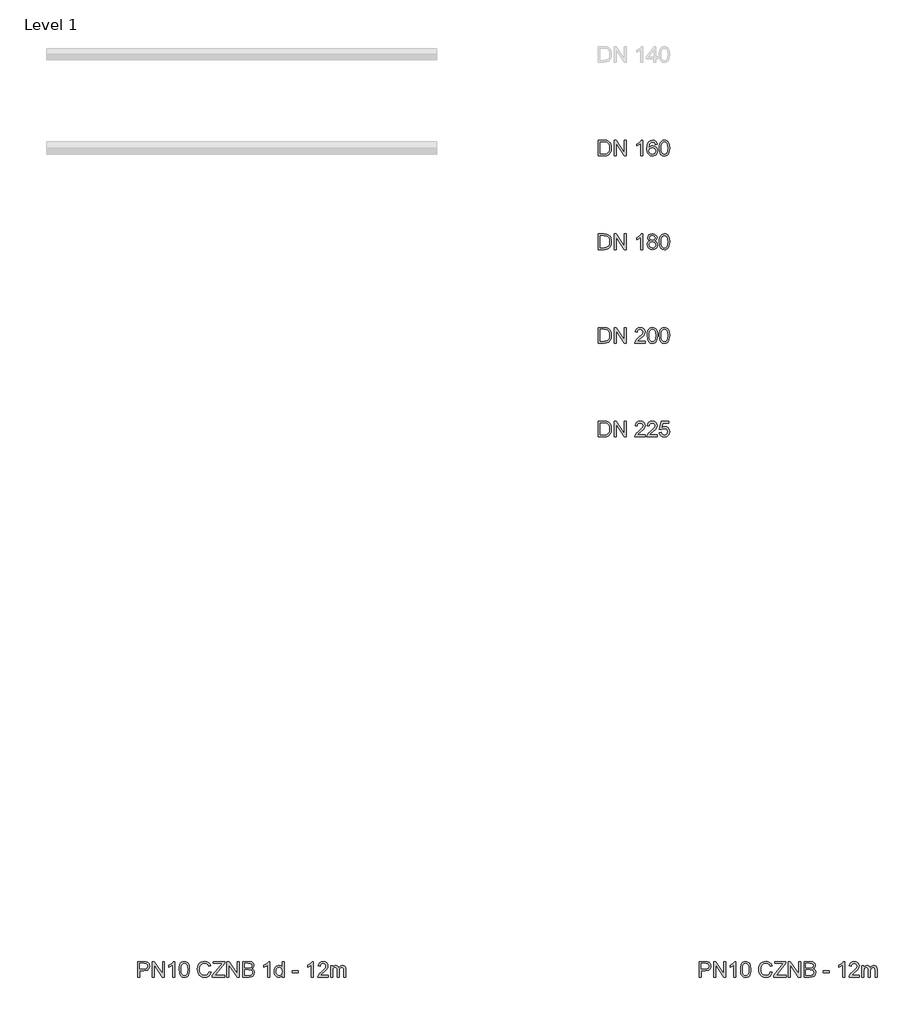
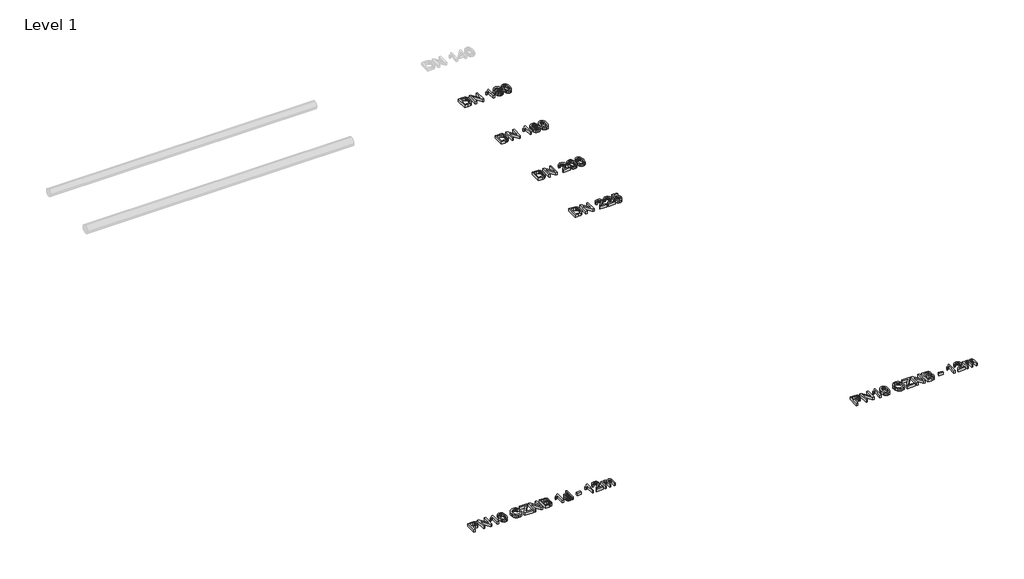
# One storey, part 8 of 13: 6 proxies.
"""IFC4 building model written with IfcOpenShell, lengths in millimetres."""

from ifc_helpers import new_model, si_unit, origin, origin_with_axes, place, context, project, spatial, polyline, outline, extrude, element, save

model = new_model("IFC4")

# Units and contexts
model_context = context("Model", 3, world=origin())
ifc_project = project(units=[si_unit("LENGTHUNIT", "METRE", prefix="MILLI")], contexts=[model_context])

# Site, building, storey
site = spatial("IfcSite", under=ifc_project)
building = spatial("IfcBuilding", under=site)
storey = spatial("IfcBuildingStorey", under=building, Name="Level 1", Elevation=0.0)

# Proxies
placement = place(None, origin())
element("IfcBuildingElementProxy", 1, Name="200mm Arial", ObjectType="200mm Arial", at=placement, inside=storey, context=model_context, shape_type="SweptSolid", body=[
    extrude(outline(polyline([(25539.3076926, -10313.949573), (25539.3076926, -10113.0369527), (25608.6166605, -10113.0369527), (25644.4728923, -10115.9309577), (25660.4880218, -10121.5105013), (25674.0015538, -10130.302881), (25687.8952305, -10145.606772), (25697.7912562, -10164.6385338), (25703.7141563, -10187.0302846), (25705.6884563, -10212.4141423), (25700.3419047, -10252.9547382), (25686.6076435, -10282.2136195), (25668.2625947, -10300.436041), (25644.2521631, -10310.5160077), (25611.9521239, -10313.949573), (25539.3076926, -10313.949573)]), holes=[polyline([(25564.4217702, -10288.8354954), (25608.8619152, -10288.8354954), (25641.1864798, -10285.2057264), (25659.8258342, -10274.9540815), (25668.5507689, -10264.0831685), (25675.1051998, -10250.0116822), (25679.207084, -10232.6783089), (25680.5743788, -10212.0217348), (25677.8949716, -10184.6513144), (25669.85675, -10164.4423301), (25657.9802929, -10150.5609162), (25643.7861793, -10142.1732067), (25608.1752021, -10138.1510302), (25564.4217702, -10138.1510302), (25564.4217702, -10288.8354954)])]), origin_with_axes(), (0.0, 0.0, 1.0), 50.0),
    extrude(outline(polyline([(25740.2203129, -10313.949573), (25740.2203129, -10113.0369527), (25767.100224, -10113.0369527), (25872.06922, -10272.2072292), (25872.06922, -10113.0369527), (25897.1832975, -10113.0369527), (25897.1832975, -10313.949573), (25870.3033864, -10313.949573), (25765.3343905, -10154.7302454), (25765.3343905, -10313.949573), (25740.2203129, -10313.949573)])), origin_with_axes(), (0.0, 0.0, 1.0), 50.0),
    extrude(outline(polyline([(26104.3744372, -10313.949573), (26079.2603597, -10313.949573), (26079.2603597, -10157.3789958), (26055.4706573, -10174.3260931), (26029.0322046, -10187.0057592), (26029.0322046, -10163.2651077), (26065.8449296, -10139.769711), (26079.315542, -10126.1948653), (26088.1876294, -10113.0369527), (26104.3744372, -10113.0369527), (26104.3744372, -10313.949573)])), origin_with_axes(), (0.0, 0.0, 1.0), 50.0),
    extrude(outline(polyline([(26292.7300188, -10166.4043674), (26267.6159412, -10169.5436271), (26258.1000603, -10148.5988789), (26246.7079812, -10140.7629924), (26232.9369318, -10138.1510302), (26210.2754009, -10144.2333458), (26200.8392277, -10153.8411973), (26193.1320999, -10167.066555), (26187.9265697, -10185.7733545), (26185.9951892, -10211.8255311), (26196.0690245, -10200.0717013), (26208.1416853, -10191.7882251), (26221.5387213, -10186.8770005), (26235.5856822, -10185.2399256), (26258.7867733, -10189.7158232), (26278.2599936, -10203.143516), (26291.4669572, -10223.6590686), (26295.8692784, -10249.3985455), (26293.7968765, -10267.3818437), (26287.5796708, -10284.0530295), (26277.7326961, -10298.1919608), (26264.7709871, -10308.5784958), (26249.2831551, -10314.9612484), (26231.8578113, -10317.0888326), (26203.3653508, -10311.4479754), (26180.673163, -10294.5254036), (26172.0141406, -10281.4165418), (26165.8291245, -10264.6533856), (26160.8811117, -10220.1641897), (26166.3748161, -10170.144501), (26173.2419467, -10151.0667539), (26182.8559295, -10135.9437382), (26193.276187, -10125.9220195), (26205.3580449, -10118.763649), (26234.5065616, -10113.0369527), (26256.5426932, -10116.5808825), (26274.1887662, -10127.2126722), (26286.5496012, -10144.0984558), (26292.7300188, -10166.4043674)]), holes=[polyline([(26185.9951892, -10249.0061381), (26191.8077247, -10270.7602267), (26207.2587685, -10286.554627), (26229.895774, -10291.9747551), (26246.4688579, -10289.1665892), (26259.4980119, -10280.7420915), (26267.9409036, -10267.4983397), (26270.7552009, -10250.2324114), (26267.9776918, -10233.6593275), (26259.6451647, -10221.022581), (26246.3952815, -10213.0211476), (26228.8657044, -10210.3540031), (26212.317146, -10213.0211476), (26198.4786516, -10221.022581), (26189.1160548, -10233.3527592), (26185.9951892, -10249.0061381)])]), origin_with_axes(), (0.0, 0.0, 1.0), 50.0),
    extrude(outline(polyline([(26317.8440963, -10215.1119436), (26319.6896376, -10182.9529258), (26325.2262617, -10157.3054194), (26334.3987861, -10137.7770168), (26347.1520286, -10123.9753106), (26363.5779597, -10115.7715422), (26383.7685498, -10113.0369527), (26399.2441191, -10114.6556334), (26413.1010076, -10119.5116758), (26424.6892904, -10127.4150073), (26433.3590428, -10138.1755557), (26445.1312666, -10167.9004209), (26449.6930034, -10215.1119436), (26447.8658561, -10247.0870203), (26442.3844144, -10272.6732131), (26433.2670723, -10292.2200098), (26420.5322239, -10306.0768983), (26404.0695046, -10314.335849), (26383.7685498, -10317.0888326), (26357.6734536, -10312.3063667), (26337.8568768, -10297.9589689), (26329.1012853, -10282.8298218), (26322.8472914, -10263.9789353), (26317.8440963, -10215.1119436)]), holes=[polyline([(26342.9581738, -10215.0628927), (26345.9012298, -10254.5672876), (26354.7303977, -10277.4311536), (26367.8760476, -10288.3388547), (26383.7685498, -10291.9747551), (26399.661052, -10288.326592), (26412.806702, -10277.3821026), (26421.6358699, -10254.5059739), (26424.5789258, -10215.0628927), (26421.7339717, -10176.4475459), (26413.1991094, -10153.4058703), (26400.0779849, -10141.9647402), (26383.4742442, -10138.1510302), (26367.7534203, -10141.5110191), (26355.1228051, -10151.5909857), (26345.9993317, -10176.0674012), (26342.9581738, -10215.0628927)])]), origin_with_axes(), (0.0, 0.0, 1.0), 50.0),
])
element("IfcBuildingElementProxy", 2, Name="200mm Arial", ObjectType="200mm Arial", at=placement, inside=storey, context=model_context, shape_type="SweptSolid", body=[
    extrude(outline(polyline([(25539.3076926, -12713.949573), (25539.3076926, -12513.0369527), (25608.6166605, -12513.0369527), (25644.4728923, -12515.9309577), (25660.4880218, -12521.5105013), (25674.0015538, -12530.302881), (25687.8952305, -12545.606772), (25697.7912562, -12564.6385338), (25703.7141563, -12587.0302846), (25705.6884563, -12612.4141423), (25700.3419047, -12652.9547382), (25686.6076435, -12682.2136195), (25668.2625947, -12700.436041), (25644.2521631, -12710.5160077), (25611.9521239, -12713.949573), (25539.3076926, -12713.949573)]), holes=[polyline([(25564.4217702, -12688.8354954), (25608.8619152, -12688.8354954), (25641.1864798, -12685.2057264), (25659.8258342, -12674.9540815), (25668.5507689, -12664.0831685), (25675.1051998, -12650.0116822), (25679.207084, -12632.6783089), (25680.5743788, -12612.0217348), (25677.8949716, -12584.6513144), (25669.85675, -12564.4423301), (25657.9802929, -12550.5609162), (25643.7861793, -12542.1732067), (25608.1752021, -12538.1510302), (25564.4217702, -12538.1510302), (25564.4217702, -12688.8354954)])]), origin_with_axes(), (0.0, 0.0, 1.0), 50.0),
    extrude(outline(polyline([(25740.2203129, -12713.949573), (25740.2203129, -12513.0369527), (25767.100224, -12513.0369527), (25872.06922, -12672.2072292), (25872.06922, -12513.0369527), (25897.1832975, -12513.0369527), (25897.1832975, -12713.949573), (25870.3033864, -12713.949573), (25765.3343905, -12554.7302454), (25765.3343905, -12713.949573), (25740.2203129, -12713.949573)])), origin_with_axes(), (0.0, 0.0, 1.0), 50.0),
    extrude(outline(polyline([(26138.9062938, -12688.8354954), (26138.9062938, -12713.949573), (26007.0573868, -12713.949573), (26009.7551881, -12696.6345937), (26025.0100281, -12669.9754118), (26056.451676, -12640.8636832), (26099.8127005, -12599.0232377), (26107.9428926, -12584.6022634), (26110.6529566, -12570.5736967), (26108.0961767, -12557.9982638), (26100.4258371, -12547.5442838), (26088.6352192, -12540.4993436), (26073.7176043, -12538.1510302), (26058.0519627, -12540.4441613), (26045.8812, -12547.3235546), (26038.0269194, -12558.2496499), (26035.310724, -12572.6828868), (26010.1966465, -12569.5436271), (26016.2850935, -12545.2511527), (26029.4491375, -12527.5069778), (26049.0020656, -12516.6544589), (26074.2571645, -12513.0369527), (26099.6962045, -12517.0591291), (26119.2123444, -12529.1256586), (26131.6283617, -12547.1518763), (26135.7670341, -12569.0531178), (26131.3033993, -12592.8673456), (26116.4654921, -12617.4909138), (26080.486633, -12651.9001431), (26051.5956336, -12676.0577275), (26040.2648682, -12688.8354954), (26138.9062938, -12688.8354954)])), origin_with_axes(), (0.0, 0.0, 1.0), 50.0),
    extrude(outline(polyline([(26164.0203714, -12615.1119436), (26165.8659127, -12582.9529258), (26171.4025367, -12557.3054194), (26180.5750612, -12537.7770168), (26193.3283037, -12523.9753106), (26209.7542347, -12515.7715422), (26229.9448249, -12513.0369527), (26245.4203942, -12514.6556334), (26259.2772827, -12519.5116758), (26270.8655655, -12527.4150073), (26279.5353179, -12538.1755557), (26291.3075417, -12567.9004209), (26295.8692784, -12615.1119436), (26294.0421312, -12647.0870203), (26288.5606895, -12672.6732131), (26279.4433474, -12692.2200098), (26266.708499, -12706.0768983), (26250.2457797, -12714.335849), (26229.9448249, -12717.0888326), (26203.8497287, -12712.3063667), (26184.0331519, -12697.9589689), (26175.2775604, -12682.8298218), (26169.0235665, -12663.9789353), (26164.0203714, -12615.1119436)]), holes=[polyline([(26189.1344489, -12615.0628927), (26192.0775049, -12654.5672876), (26200.9066728, -12677.4311536), (26214.0523227, -12688.3388547), (26229.9448249, -12691.9747551), (26245.8373271, -12688.326592), (26258.9829771, -12677.3821026), (26267.8121449, -12654.5059739), (26270.7552009, -12615.0628927), (26267.9102468, -12576.4475459), (26259.3753845, -12553.4058703), (26246.25426, -12541.9647402), (26229.6505193, -12538.1510302), (26213.9296954, -12541.5110191), (26201.2990802, -12551.5909857), (26192.1756067, -12576.0674012), (26189.1344489, -12615.0628927)])]), origin_with_axes(), (0.0, 0.0, 1.0), 50.0),
    extrude(outline(polyline([(26317.8440963, -12615.1119436), (26319.6896376, -12582.9529258), (26325.2262617, -12557.3054194), (26334.3987861, -12537.7770168), (26347.1520286, -12523.9753106), (26363.5779597, -12515.7715422), (26383.7685498, -12513.0369527), (26399.2441191, -12514.6556334), (26413.1010076, -12519.5116758), (26424.6892904, -12527.4150073), (26433.3590428, -12538.1755557), (26445.1312666, -12567.9004209), (26449.6930034, -12615.1119436), (26447.8658561, -12647.0870203), (26442.3844144, -12672.6732131), (26433.2670723, -12692.2200098), (26420.5322239, -12706.0768983), (26404.0695046, -12714.335849), (26383.7685498, -12717.0888326), (26357.6734536, -12712.3063667), (26337.8568768, -12697.9589689), (26329.1012853, -12682.8298218), (26322.8472914, -12663.9789353), (26317.8440963, -12615.1119436)]), holes=[polyline([(26342.9581738, -12615.0628927), (26345.9012298, -12654.5672876), (26354.7303977, -12677.4311536), (26367.8760476, -12688.3388547), (26383.7685498, -12691.9747551), (26399.661052, -12688.326592), (26412.806702, -12677.3821026), (26421.6358699, -12654.5059739), (26424.5789258, -12615.0628927), (26421.7339717, -12576.4475459), (26413.1991094, -12553.4058703), (26400.0779849, -12541.9647402), (26383.4742442, -12538.1510302), (26367.7534203, -12541.5110191), (26355.1228051, -12551.5909857), (26345.9993317, -12576.0674012), (26342.9581738, -12615.0628927)])]), origin_with_axes(), (0.0, 0.0, 1.0), 50.0),
])
element("IfcBuildingElementProxy", 3, Name="200mm Arial", ObjectType="200mm Arial", at=placement, inside=storey, context=model_context, shape_type="SweptSolid", body=[
    extrude(outline(polyline([(25539.3076926, -11513.949573), (25539.3076926, -11313.0369527), (25608.6166605, -11313.0369527), (25644.4728923, -11315.9309577), (25660.4880218, -11321.5105013), (25674.0015538, -11330.302881), (25687.8952305, -11345.606772), (25697.7912562, -11364.6385338), (25703.7141563, -11387.0302846), (25705.6884563, -11412.4141423), (25700.3419047, -11452.9547382), (25686.6076435, -11482.2136195), (25668.2625947, -11500.436041), (25644.2521631, -11510.5160077), (25611.9521239, -11513.949573), (25539.3076926, -11513.949573)]), holes=[polyline([(25564.4217702, -11488.8354954), (25608.8619152, -11488.8354954), (25641.1864798, -11485.2057264), (25659.8258342, -11474.9540815), (25668.5507689, -11464.0831685), (25675.1051998, -11450.0116822), (25679.207084, -11432.6783089), (25680.5743788, -11412.0217348), (25677.8949716, -11384.6513144), (25669.85675, -11364.4423301), (25657.9802929, -11350.5609162), (25643.7861793, -11342.1732067), (25608.1752021, -11338.1510302), (25564.4217702, -11338.1510302), (25564.4217702, -11488.8354954)])]), origin_with_axes(), (0.0, 0.0, 1.0), 50.0),
    extrude(outline(polyline([(25740.2203129, -11513.949573), (25740.2203129, -11313.0369527), (25767.100224, -11313.0369527), (25872.06922, -11472.2072292), (25872.06922, -11313.0369527), (25897.1832975, -11313.0369527), (25897.1832975, -11513.949573), (25870.3033864, -11513.949573), (25765.3343905, -11354.7302454), (25765.3343905, -11513.949573), (25740.2203129, -11513.949573)])), origin_with_axes(), (0.0, 0.0, 1.0), 50.0),
    extrude(outline(polyline([(26104.3744372, -11513.949573), (26079.2603597, -11513.949573), (26079.2603597, -11357.3789958), (26055.4706573, -11374.3260931), (26029.0322046, -11387.0057592), (26029.0322046, -11363.2651077), (26065.8449296, -11339.769711), (26079.315542, -11326.1948653), (26088.1876294, -11313.0369527), (26104.3744372, -11313.0369527), (26104.3744372, -11513.949573)])), origin_with_axes(), (0.0, 0.0, 1.0), 50.0),
    extrude(outline(polyline([(26200.6123672, -11403.2906688), (26187.1662802, -11396.6687929), (26177.7301071, -11387.6924722), (26172.1566948, -11376.5456478), (26170.2988908, -11363.4122605), (26174.3455927, -11343.7796247), (26186.4856985, -11327.5560287), (26205.3580449, -11316.6667217), (26229.6014684, -11313.0369527), (26253.9920447, -11316.7525608), (26273.1096457, -11327.8993853), (26285.4704807, -11344.3804986), (26289.5907591, -11364.0989736), (26287.7574804, -11376.8092965), (26282.2576446, -11387.7660486), (26273.0299379, -11396.687187), (26260.0130466, -11403.2906688), (26275.4702218, -11411.255314), (26286.7212795, -11422.9846183), (26293.5822787, -11437.9144959), (26295.8692784, -11455.4808612), (26291.3320672, -11479.4912927), (26277.7204333, -11499.332395), (26256.7021087, -11512.6497232), (26229.9448249, -11517.0888326), (26203.1875411, -11512.6313291), (26182.1692165, -11499.2588186), (26168.5575826, -11479.227644), (26164.0203714, -11454.7941481), (26166.3993416, -11436.5472012), (26173.5362523, -11421.5376158), (26185.0632215, -11410.2804267), (26200.6123672, -11403.2906688)]), holes=[polyline([(26195.4129683, -11364.1480245), (26197.6386544, -11375.110908), (26204.3157126, -11383.8664995), (26215.2479392, -11389.6054586), (26230.2391305, -11391.518445), (26244.8808339, -11389.6177213), (26255.6475136, -11383.9155504), (26262.2693896, -11375.4542645), (26264.4766815, -11365.276196), (26262.1958132, -11354.7118513), (26255.353208, -11345.974654), (26244.4393755, -11340.1069361), (26229.9448249, -11338.1510302), (26215.3583038, -11340.0640166), (26204.4628654, -11345.8029757), (26197.6754426, -11354.2152106), (26195.4129683, -11364.1480245)]), polyline([(26189.1344489, -11453.9112313), (26193.3283037, -11472.8203659), (26199.1347078, -11480.9321639), (26208.1662108, -11486.97156), (26230.1410286, -11491.9747551), (26247.2352787, -11489.3443988), (26260.0620976, -11481.45333), (26268.0819251, -11469.5032966), (26270.7552009, -11454.6960463), (26267.9960859, -11439.6374099), (26259.7187411, -11427.4237277), (26246.5976166, -11419.3303238), (26229.3071628, -11416.6325225), (26212.452036, -11419.2935356), (26199.7539758, -11427.2765749), (26191.7893306, -11439.2572652), (26189.1344489, -11453.9112313)])]), origin_with_axes(), (0.0, 0.0, 1.0), 50.0),
    extrude(outline(polyline([(26317.8440963, -11415.1119436), (26319.6896376, -11382.9529258), (26325.2262617, -11357.3054194), (26334.3987861, -11337.7770168), (26347.1520286, -11323.9753106), (26363.5779597, -11315.7715422), (26383.7685498, -11313.0369527), (26399.2441191, -11314.6556334), (26413.1010076, -11319.5116758), (26424.6892904, -11327.4150073), (26433.3590428, -11338.1755557), (26445.1312666, -11367.9004209), (26449.6930034, -11415.1119436), (26447.8658561, -11447.0870203), (26442.3844144, -11472.6732131), (26433.2670723, -11492.2200098), (26420.5322239, -11506.0768983), (26404.0695046, -11514.335849), (26383.7685498, -11517.0888326), (26357.6734536, -11512.3063667), (26337.8568768, -11497.9589689), (26329.1012853, -11482.8298218), (26322.8472914, -11463.9789353), (26317.8440963, -11415.1119436)]), holes=[polyline([(26342.9581738, -11415.0628927), (26345.9012298, -11454.5672876), (26354.7303977, -11477.4311536), (26367.8760476, -11488.3388547), (26383.7685498, -11491.9747551), (26399.661052, -11488.326592), (26412.806702, -11477.3821026), (26421.6358699, -11454.5059739), (26424.5789258, -11415.0628927), (26421.7339717, -11376.4475459), (26413.1991094, -11353.4058703), (26400.0779849, -11341.9647402), (26383.4742442, -11338.1510302), (26367.7534203, -11341.5110191), (26355.1228051, -11351.5909857), (26345.9993317, -11376.0674012), (26342.9581738, -11415.0628927)])]), origin_with_axes(), (0.0, 0.0, 1.0), 50.0),
])
element("IfcBuildingElementProxy", 4, Name="200mm Arial", ObjectType="200mm Arial", at=placement, inside=storey, context=model_context, shape_type="SweptSolid", body=[
    extrude(outline(polyline([(25539.3076926, -13913.949573), (25539.3076926, -13713.0369527), (25608.6166605, -13713.0369527), (25644.4728923, -13715.9309577), (25660.4880218, -13721.5105013), (25674.0015538, -13730.302881), (25687.8952305, -13745.606772), (25697.7912562, -13764.6385338), (25703.7141563, -13787.0302846), (25705.6884563, -13812.4141423), (25700.3419047, -13852.9547382), (25686.6076435, -13882.2136195), (25668.2625947, -13900.436041), (25644.2521631, -13910.5160077), (25611.9521239, -13913.949573), (25539.3076926, -13913.949573)]), holes=[polyline([(25564.4217702, -13888.8354954), (25608.8619152, -13888.8354954), (25641.1864798, -13885.2057264), (25659.8258342, -13874.9540815), (25668.5507689, -13864.0831685), (25675.1051998, -13850.0116822), (25679.207084, -13832.6783089), (25680.5743788, -13812.0217348), (25677.8949716, -13784.6513144), (25669.85675, -13764.4423301), (25657.9802929, -13750.5609162), (25643.7861793, -13742.1732067), (25608.1752021, -13738.1510302), (25564.4217702, -13738.1510302), (25564.4217702, -13888.8354954)])]), origin_with_axes(), (0.0, 0.0, 1.0), 50.0),
    extrude(outline(polyline([(25740.2203129, -13913.949573), (25740.2203129, -13713.0369527), (25767.100224, -13713.0369527), (25872.06922, -13872.2072292), (25872.06922, -13713.0369527), (25897.1832975, -13713.0369527), (25897.1832975, -13913.949573), (25870.3033864, -13913.949573), (25765.3343905, -13754.7302454), (25765.3343905, -13913.949573), (25740.2203129, -13913.949573)])), origin_with_axes(), (0.0, 0.0, 1.0), 50.0),
    extrude(outline(polyline([(26138.9062938, -13888.8354954), (26138.9062938, -13913.949573), (26007.0573868, -13913.949573), (26009.7551881, -13896.6345937), (26025.0100281, -13869.9754118), (26056.451676, -13840.8636832), (26099.8127005, -13799.0232377), (26107.9428926, -13784.6022634), (26110.6529566, -13770.5736967), (26108.0961767, -13757.9982638), (26100.4258371, -13747.5442838), (26088.6352192, -13740.4993436), (26073.7176043, -13738.1510302), (26058.0519627, -13740.4441613), (26045.8812, -13747.3235546), (26038.0269194, -13758.2496499), (26035.310724, -13772.6828868), (26010.1966465, -13769.5436271), (26016.2850935, -13745.2511527), (26029.4491375, -13727.5069778), (26049.0020656, -13716.6544589), (26074.2571645, -13713.0369527), (26099.6962045, -13717.0591291), (26119.2123444, -13729.1256586), (26131.6283617, -13747.1518763), (26135.7670341, -13769.0531178), (26131.3033993, -13792.8673456), (26116.4654921, -13817.4909138), (26080.486633, -13851.9001431), (26051.5956336, -13876.0577275), (26040.2648682, -13888.8354954), (26138.9062938, -13888.8354954)])), origin_with_axes(), (0.0, 0.0, 1.0), 50.0),
    extrude(outline(polyline([(26292.7300188, -13888.8354954), (26292.7300188, -13913.949573), (26160.8811117, -13913.949573), (26163.578913, -13896.6345937), (26178.833753, -13869.9754118), (26210.2754009, -13840.8636832), (26253.6364254, -13799.0232377), (26261.7666175, -13784.6022634), (26264.4766815, -13770.5736967), (26261.9199017, -13757.9982638), (26254.2495621, -13747.5442838), (26242.4589441, -13740.4993436), (26227.5413292, -13738.1510302), (26211.8756876, -13740.4441613), (26199.7049249, -13747.3235546), (26191.8506443, -13758.2496499), (26189.1344489, -13772.6828868), (26164.0203714, -13769.5436271), (26170.1088184, -13745.2511527), (26183.2728625, -13727.5069778), (26202.8257905, -13716.6544589), (26228.0808895, -13713.0369527), (26253.5199294, -13717.0591291), (26273.0360693, -13729.1256586), (26285.4520866, -13747.1518763), (26289.5907591, -13769.0531178), (26285.1271242, -13792.8673456), (26270.289217, -13817.4909138), (26234.3103579, -13851.9001431), (26205.4193586, -13876.0577275), (26194.0885931, -13888.8354954), (26292.7300188, -13888.8354954)])), origin_with_axes(), (0.0, 0.0, 1.0), 50.0),
    extrude(outline(polyline([(26317.8440963, -13860.5821582), (26342.9581738, -13857.4428985), (26347.5689615, -13872.5199289), (26355.6133145, -13883.3172655), (26367.0544445, -13889.8103827), (26381.8555634, -13891.9747551), (26399.8572557, -13888.9642541), (26413.3462622, -13879.9327511), (26421.7707599, -13865.9225785), (26424.5789258, -13847.9760685), (26421.9485696, -13831.0780222), (26414.0575008, -13818.1531014), (26400.8444058, -13809.9493329), (26382.2479709, -13807.2147434), (26360.1995767, -13811.5802764), (26346.0974335, -13822.9110419), (26320.983356, -13819.7717822), (26342.9581738, -13716.1762123), (26440.2752243, -13716.1762123), (26440.2752243, -13741.2902899), (26363.26526, -13741.2902899), (26352.5231057, -13796.619742), (26370.4634843, -13785.7304349), (26389.2622543, -13782.1006659), (26412.7269942, -13786.601089), (26432.2063459, -13800.1023582), (26445.321339, -13820.6792244), (26449.6930034, -13846.4064386), (26445.756666, -13871.5205162), (26433.947654, -13893.0048247), (26423.512068, -13903.5415782), (26411.335174, -13911.0678307), (26397.4169718, -13915.5835821), (26381.7574616, -13917.0888326), (26357.0909738, -13913.2199403), (26337.4399439, -13901.6132634), (26323.9693315, -13883.6177025), (26317.8440963, -13860.5821582)])), origin_with_axes(), (0.0, 0.0, 1.0), 50.0),
])
element("IfcBuildingElementProxy", 5, Name="200mm Arial", ObjectType="200mm Arial", at=placement, inside=storey, context=model_context, shape_type="SweptSolid", body=[
    extrude(outline(polyline([(26829.3512364, -20838.0508707), (26829.3512364, -20637.1382504), (26903.8105522, -20637.1382504), (26933.829723, -20639.0512367), (26958.232562, -20648.4444903), (26967.1046495, -20656.7708862), (26974.0514878, -20667.8686597), (26978.5396481, -20680.9591274), (26980.0357016, -20695.2636056), (26975.995131, -20718.9429434), (26963.8734193, -20738.673681), (26954.1659331, -20746.4421225), (26941.205757, -20751.9910093), (26905.5273348, -20756.4301187), (26854.4653139, -20756.4301187), (26854.4653139, -20838.0508707), (26829.3512364, -20838.0508707)]), holes=[polyline([(26854.4653139, -20731.3160411), (26906.9988628, -20731.3160411), (26929.2679863, -20729.0106473), (26943.9832661, -20722.0944658), (26952.1870346, -20710.9966923), (26954.9216241, -20696.1465224), (26953.3090746, -20684.8648079), (26948.4714264, -20675.3489269), (26941.0095533, -20668.1874908), (26931.5243292, -20663.9691105), (26906.4102516, -20662.2523279), (26854.4653139, -20662.2523279), (26854.4653139, -20731.3160411)])]), origin_with_axes(), (0.0, 0.0, 1.0), 50.0),
    extrude(outline(polyline([(27014.5675582, -20838.0508707), (27014.5675582, -20637.1382504), (27041.4474693, -20637.1382504), (27146.4164653, -20796.3085269), (27146.4164653, -20637.1382504), (27171.5305428, -20637.1382504), (27171.5305428, -20838.0508707), (27144.6506317, -20838.0508707), (27039.6816357, -20678.8315431), (27039.6816357, -20838.0508707), (27014.5675582, -20838.0508707)])), origin_with_axes(), (0.0, 0.0, 1.0), 50.0),
    extrude(outline(polyline([(27300.2401902, -20838.0508707), (27275.1261127, -20838.0508707), (27275.1261127, -20681.4802935), (27251.3364103, -20698.4273908), (27224.8979576, -20711.1070569), (27224.8979576, -20687.3664054), (27261.7106826, -20663.8710087), (27275.181295, -20650.2961631), (27284.0533824, -20637.1382504), (27300.2401902, -20637.1382504), (27300.2401902, -20838.0508707)])), origin_with_axes(), (0.0, 0.0, 1.0), 50.0),
    extrude(outline(polyline([(27359.8861243, -20739.2132413), (27361.7316657, -20707.0542235), (27367.2682897, -20681.4067171), (27376.4408141, -20661.8783145), (27389.1940566, -20648.0766083), (27405.6199877, -20639.8728399), (27425.8105779, -20637.1382504), (27441.2861471, -20638.7569311), (27455.1430356, -20643.6129735), (27466.7313185, -20651.516305), (27475.4010708, -20662.2768534), (27487.1732947, -20692.0017186), (27491.7350314, -20739.2132413), (27489.9078842, -20771.188318), (27484.4264424, -20796.7745108), (27475.3091003, -20816.3213075), (27462.5742519, -20830.178196), (27446.1115327, -20838.4371468), (27425.8105779, -20841.1901304), (27399.7154817, -20836.4076644), (27379.8989049, -20822.0602666), (27371.1433134, -20806.9311195), (27364.8893195, -20788.080233), (27359.8861243, -20739.2132413)]), holes=[polyline([(27385.0002019, -20739.1641904), (27387.9432578, -20778.6685853), (27396.7724257, -20801.5324513), (27409.9180757, -20812.4401524), (27425.8105779, -20816.0760528), (27441.7030801, -20812.4278897), (27454.84873, -20801.4834003), (27463.6778979, -20778.6072716), (27466.6209539, -20739.1641904), (27463.7759998, -20700.5488436), (27455.2411375, -20677.507168), (27442.120013, -20666.0660379), (27425.5162723, -20662.2523279), (27409.7954484, -20665.6123168), (27397.1648332, -20675.6922835), (27388.0413597, -20700.1686989), (27385.0002019, -20739.1641904)])]), origin_with_axes(), (0.0, 0.0, 1.0), 50.0),
    extrude(outline(polyline([(27742.8758068, -20766.6327127), (27767.9898843, -20773.1074358), (27756.4016015, -20802.3724485), (27738.2159682, -20823.7525238), (27714.328164, -20836.8307287), (27685.6333683, -20841.1901304), (27656.5032457, -20837.8914551), (27633.3695996, -20827.9954295), (27615.6376874, -20811.8454099), (27602.7127666, -20789.7847529), (27594.8216978, -20763.8490722), (27592.1913416, -20736.0739816), (27595.1650544, -20706.778312), (27604.0861927, -20681.4802935), (27618.4887729, -20660.983135), (27637.9068108, -20646.0900456), (27660.9362237, -20637.0217544), (27686.1729286, -20633.9989907), (27713.7088959, -20637.9108025), (27736.4746601, -20649.6462382), (27753.7589825, -20668.4817963), (27764.8506246, -20693.6939758), (27739.7365471, -20699.6781895), (27731.0300065, -20681.3637975), (27719.1351554, -20668.8006274), (27703.9048408, -20661.534958), (27685.1919099, -20659.1130682), (27663.6217623, -20661.7986068), (27645.9021129, -20669.8552225), (27632.4560259, -20682.4367867), (27623.7065658, -20698.6971709), (27618.9057058, -20717.0790079), (27617.3054191, -20736.0249307), (27619.2000114, -20759.2260218), (27624.8837882, -20779.2878533), (27634.5713474, -20795.4440043), (27648.4772868, -20806.9280539), (27665.1484726, -20813.7890531), (27683.1317708, -20816.0760528), (27704.0949131, -20812.9613186), (27721.5631765, -20803.6171159), (27734.7517461, -20788.1415466), (27742.8758068, -20766.6327127)])), origin_with_axes(), (0.0, 0.0, 1.0), 50.0),
    extrude(outline(polyline([(27786.8254425, -20838.0508707), (27786.8254425, -20812.0048254), (27889.5871465, -20686.189183), (27909.1094177, -20662.2523279), (27799.3824813, -20662.2523279), (27799.3824813, -20637.1382504), (27940.6491674, -20637.1382504), (27940.6491674, -20662.2523279), (27828.1753787, -20799.938296), (27817.5803773, -20812.9367931), (27943.7884271, -20812.9367931), (27943.7884271, -20838.0508707), (27786.8254425, -20838.0508707)])), origin_with_axes(), (0.0, 0.0, 1.0), 50.0),
    extrude(outline(polyline([(27972.0417643, -20838.0508707), (27972.0417643, -20637.1382504), (27998.9216754, -20637.1382504), (28103.8906714, -20796.3085269), (28103.8906714, -20637.1382504), (28129.0047489, -20637.1382504), (28129.0047489, -20838.0508707), (28102.1248378, -20838.0508707), (27997.1558419, -20678.8315431), (27997.1558419, -20838.0508707), (27972.0417643, -20838.0508707)])), origin_with_axes(), (0.0, 0.0, 1.0), 50.0),
    extrude(outline(polyline([(28172.9543846, -20838.0508707), (28172.9543846, -20637.1382504), (28249.6209924, -20637.1382504), (28270.7067621, -20638.6159097), (28287.1694814, -20643.0488877), (28299.7878338, -20650.5475491), (28309.340503, -20661.2222583), (28315.3553736, -20673.7792971), (28317.3603305, -20686.924947), (28315.6742047, -20699.0221333), (28310.6158272, -20710.3958183), (28302.14841, -20720.3470263), (28290.2351647, -20728.1767814), (28304.4660665, -20735.6079977), (28314.9813602, -20746.9142377), (28321.4744774, -20761.3474747), (28323.6388498, -20778.1596818), (28317.7282125, -20805.1622203), (28303.086509, -20824.3901859), (28281.2343185, -20834.5927799), (28249.0323812, -20838.0508707), (28172.9543846, -20838.0508707)]), holes=[polyline([(28198.0684622, -20812.9367931), (28249.5719415, -20812.9367931), (28268.2112959, -20811.9557745), (28283.9811708, -20806.4865955), (28294.4290194, -20795.3275083), (28298.5247723, -20778.4049365), (28293.7177809, -20758.8826653), (28287.4208674, -20751.8254624), (28278.1441098, -20747.2330688), (28247.1193948, -20743.8730799), (28198.0684622, -20743.8730799), (28198.0684622, -20812.9367931)]), polyline([(28198.0684622, -20718.7590024), (28243.9310842, -20718.7590024), (28270.7128935, -20716.6007613), (28286.8261249, -20707.3056096), (28292.2462529, -20690.9471235), (28287.1940069, -20674.564112), (28272.7239817, -20664.8765528), (28240.448468, -20662.2523279), (28198.0684622, -20662.2523279), (28198.0684622, -20718.7590024)])]), origin_with_axes(), (0.0, 0.0, 1.0), 50.0),
    extrude(outline(polyline([(28420.9559003, -20778.4049365), (28420.9559003, -20753.290859), (28499.4373926, -20753.290859), (28499.4373926, -20778.4049365), (28420.9559003, -20778.4049365)])), origin_with_axes(), (0.0, 0.0, 1.0), 50.0),
    extrude(outline(polyline([(28694.0714935, -20838.0508707), (28668.957416, -20838.0508707), (28668.957416, -20681.4802935), (28645.1677136, -20698.4273908), (28618.7292609, -20711.1070569), (28618.7292609, -20687.3664054), (28655.5419859, -20663.8710087), (28669.0125983, -20650.2961631), (28677.8846857, -20637.1382504), (28694.0714935, -20637.1382504), (28694.0714935, -20838.0508707)])), origin_with_axes(), (0.0, 0.0, 1.0), 50.0),
    extrude(outline(polyline([(28882.4270751, -20812.9367931), (28882.4270751, -20838.0508707), (28750.578168, -20838.0508707), (28753.2759693, -20820.7358914), (28768.5308093, -20794.0767095), (28799.9724572, -20764.9649809), (28843.3334817, -20723.1245354), (28851.4636738, -20708.7035612), (28854.1737378, -20694.6749944), (28851.616958, -20682.0995615), (28843.9466184, -20671.6455815), (28832.1560004, -20664.6006413), (28817.2383855, -20662.2523279), (28801.5727439, -20664.545459), (28789.4019812, -20671.4248523), (28781.5477006, -20682.3509476), (28778.8315052, -20696.7841845), (28753.7174277, -20693.6449248), (28759.8058747, -20669.3524504), (28772.9699188, -20651.6082755), (28792.5228468, -20640.7557566), (28817.7779458, -20637.1382504), (28843.2169857, -20641.1604268), (28862.7331256, -20653.2269563), (28875.1491429, -20671.253174), (28879.2878154, -20693.1544155), (28874.8241805, -20716.9686433), (28859.9862733, -20741.5922115), (28824.0074142, -20776.0014408), (28795.1164149, -20800.1590252), (28783.7856494, -20812.9367931), (28882.4270751, -20812.9367931)])), origin_with_axes(), (0.0, 0.0, 1.0), 50.0),
    extrude(outline(polyline([(28913.819672, -20838.0508707), (28913.819672, -20690.5056651), (28938.9337495, -20690.5056651), (28938.9337495, -20714.7858768), (28946.4875931, -20703.632921), (28956.1996778, -20694.8957236), (28967.7389097, -20689.248735), (28980.7741951, -20687.3664054), (28994.7414482, -20689.2855232), (29005.9373236, -20695.0428764), (29014.3005076, -20704.2583204), (29019.7696866, -20716.5517104), (29028.9238169, -20703.7831395), (29039.3655342, -20694.6627317), (29051.0948385, -20689.190487), (29064.1117297, -20687.3664054), (29082.9902075, -20690.4014319), (29096.9513292, -20699.5065113), (29105.578162, -20714.9268982), (29108.4537729, -20736.9078475), (29108.4537729, -20838.0508707), (29083.3396954, -20838.0508707), (29083.3396954, -20747.6990526), (29081.009776, -20726.7297789), (29072.5730156, -20716.4045576), (29058.2256178, -20712.480483), (29044.6201154, -20714.9943433), (29033.5284732, -20722.5359242), (29026.1524392, -20735.6202605), (29023.6937612, -20754.762387), (29023.6937612, -20838.0508707), (28998.5796837, -20838.0508707), (28998.5796837, -20744.9031495), (28997.1265498, -20730.7029045), (28992.7671481, -20720.5738869), (28985.0968085, -20714.5038339), (28973.7108608, -20712.480483), (28955.1205573, -20717.8760856), (28947.7629174, -20724.5224869), (28942.7597223, -20733.6704859), (28938.9337495, -20763.6406058), (28938.9337495, -20838.0508707), (28913.819672, -20838.0508707)])), origin_with_axes(), (0.0, 0.0, 1.0), 50.0),
])
element("IfcBuildingElementProxy", 6, Name="200mm Arial", ObjectType="200mm Arial", at=placement, inside=storey, context=model_context, shape_type="SweptSolid", body=[
    extrude(outline(polyline([(19636.2867653, -20838.0508707), (19636.2867653, -20637.1382504), (19710.7460811, -20637.1382504), (19740.7652519, -20639.0512367), (19765.1680909, -20648.4444903), (19774.0401784, -20656.7708862), (19780.9870167, -20667.8686597), (19785.4751771, -20680.9591274), (19786.9712305, -20695.2636056), (19782.9306599, -20718.9429434), (19770.8089482, -20738.673681), (19761.1014621, -20746.4421225), (19748.1412859, -20751.9910093), (19712.4628638, -20756.4301187), (19661.4008428, -20756.4301187), (19661.4008428, -20838.0508707), (19636.2867653, -20838.0508707)]), holes=[polyline([(19661.4008428, -20731.3160411), (19713.9343918, -20731.3160411), (19736.2035152, -20729.0106473), (19750.918795, -20722.0944658), (19759.1225635, -20710.9966923), (19761.857153, -20696.1465224), (19760.2446036, -20684.8648079), (19755.4069553, -20675.3489269), (19747.9450822, -20668.1874908), (19738.4598581, -20663.9691105), (19713.3457806, -20662.2523279), (19661.4008428, -20662.2523279), (19661.4008428, -20731.3160411)])]), origin_with_axes(), (0.0, 0.0, 1.0), 50.0),
    extrude(outline(polyline([(19821.5030871, -20838.0508707), (19821.5030871, -20637.1382504), (19848.3829983, -20637.1382504), (19953.3519942, -20796.3085269), (19953.3519942, -20637.1382504), (19978.4660717, -20637.1382504), (19978.4660717, -20838.0508707), (19951.5861606, -20838.0508707), (19846.6171647, -20678.8315431), (19846.6171647, -20838.0508707), (19821.5030871, -20838.0508707)])), origin_with_axes(), (0.0, 0.0, 1.0), 50.0),
    extrude(outline(polyline([(20107.1757191, -20838.0508707), (20082.0616416, -20838.0508707), (20082.0616416, -20681.4802935), (20058.2719392, -20698.4273908), (20031.8334865, -20711.1070569), (20031.8334865, -20687.3664054), (20068.6462115, -20663.8710087), (20082.1168239, -20650.2961631), (20090.9889113, -20637.1382504), (20107.1757191, -20637.1382504), (20107.1757191, -20838.0508707)])), origin_with_axes(), (0.0, 0.0, 1.0), 50.0),
    extrude(outline(polyline([(20166.8216533, -20739.2132413), (20168.6671946, -20707.0542235), (20174.2038186, -20681.4067171), (20183.3763431, -20661.8783145), (20196.1295856, -20648.0766083), (20212.5555166, -20639.8728399), (20232.7461068, -20637.1382504), (20248.2216761, -20638.7569311), (20262.0785646, -20643.6129735), (20273.6668474, -20651.516305), (20282.3365998, -20662.2768534), (20294.1088236, -20692.0017186), (20298.6705604, -20739.2132413), (20296.8434131, -20771.188318), (20291.3619714, -20796.7745108), (20282.2446293, -20816.3213075), (20269.5097809, -20830.178196), (20253.0470616, -20838.4371468), (20232.7461068, -20841.1901304), (20206.6510106, -20836.4076644), (20186.8344338, -20822.0602666), (20178.0788423, -20806.9311195), (20171.8248484, -20788.080233), (20166.8216533, -20739.2132413)]), holes=[polyline([(20191.9357308, -20739.1641904), (20194.8787868, -20778.6685853), (20203.7079547, -20801.5324513), (20216.8536046, -20812.4401524), (20232.7461068, -20816.0760528), (20248.638609, -20812.4278897), (20261.784259, -20801.4834003), (20270.6134269, -20778.6072716), (20273.5564828, -20739.1641904), (20270.7115287, -20700.5488436), (20262.1766664, -20677.507168), (20249.0555419, -20666.0660379), (20232.4518012, -20662.2523279), (20216.7309773, -20665.6123168), (20204.1003621, -20675.6922835), (20194.9768886, -20700.1686989), (20191.9357308, -20739.1641904)])]), origin_with_axes(), (0.0, 0.0, 1.0), 50.0),
    extrude(outline(polyline([(20549.8113357, -20766.6327127), (20574.9254133, -20773.1074358), (20563.3371304, -20802.3724485), (20545.1514971, -20823.7525238), (20521.2636929, -20836.8307287), (20492.5688973, -20841.1901304), (20463.4387746, -20837.8914551), (20440.3051285, -20827.9954295), (20422.5732163, -20811.8454099), (20409.6482956, -20789.7847529), (20401.7572268, -20763.8490722), (20399.1268705, -20736.0739816), (20402.1005833, -20706.778312), (20411.0217217, -20681.4802935), (20425.4243018, -20660.983135), (20444.8423398, -20646.0900456), (20467.8717527, -20637.0217544), (20493.1084575, -20633.9989907), (20520.6444249, -20637.9108025), (20543.410189, -20649.6462382), (20560.6945114, -20668.4817963), (20571.7861536, -20693.6939758), (20546.672076, -20699.6781895), (20537.9655355, -20681.3637975), (20526.0706843, -20668.8006274), (20510.8403697, -20661.534958), (20492.1274389, -20659.1130682), (20470.5572912, -20661.7986068), (20452.8376418, -20669.8552225), (20439.3915549, -20682.4367867), (20430.6420948, -20698.6971709), (20425.8412347, -20717.0790079), (20424.240948, -20736.0249307), (20426.1355403, -20759.2260218), (20431.8193171, -20779.2878533), (20441.5068763, -20795.4440043), (20455.4128158, -20806.9280539), (20472.0840015, -20813.7890531), (20490.0672997, -20816.0760528), (20511.0304421, -20812.9613186), (20528.4987055, -20803.6171159), (20541.687275, -20788.1415466), (20549.8113357, -20766.6327127)])), origin_with_axes(), (0.0, 0.0, 1.0), 50.0),
    extrude(outline(polyline([(20593.7609714, -20838.0508707), (20593.7609714, -20812.0048254), (20696.5226754, -20686.189183), (20716.0449466, -20662.2523279), (20606.3180102, -20662.2523279), (20606.3180102, -20637.1382504), (20747.5846963, -20637.1382504), (20747.5846963, -20662.2523279), (20635.1109077, -20799.938296), (20624.5159062, -20812.9367931), (20750.723956, -20812.9367931), (20750.723956, -20838.0508707), (20593.7609714, -20838.0508707)])), origin_with_axes(), (0.0, 0.0, 1.0), 50.0),
    extrude(outline(polyline([(20778.9772933, -20838.0508707), (20778.9772933, -20637.1382504), (20805.8572044, -20637.1382504), (20910.8262003, -20796.3085269), (20910.8262003, -20637.1382504), (20935.9402779, -20637.1382504), (20935.9402779, -20838.0508707), (20909.0603667, -20838.0508707), (20804.0913708, -20678.8315431), (20804.0913708, -20838.0508707), (20778.9772933, -20838.0508707)])), origin_with_axes(), (0.0, 0.0, 1.0), 50.0),
    extrude(outline(polyline([(20979.8899136, -20838.0508707), (20979.8899136, -20637.1382504), (21056.5565213, -20637.1382504), (21077.642291, -20638.6159097), (21094.1050103, -20643.0488877), (21106.7233628, -20650.5475491), (21116.2760319, -20661.2222583), (21122.2909025, -20673.7792971), (21124.2958594, -20686.924947), (21122.6097336, -20699.0221333), (21117.5513561, -20710.3958183), (21109.0839389, -20720.3470263), (21097.1706936, -20728.1767814), (21111.4015955, -20735.6079977), (21121.9168892, -20746.9142377), (21128.4100064, -20761.3474747), (21130.5743788, -20778.1596818), (21124.6637414, -20805.1622203), (21110.022038, -20824.3901859), (21088.1698475, -20834.5927799), (21055.9679102, -20838.0508707), (20979.8899136, -20838.0508707)]), holes=[polyline([(21005.0039911, -20812.9367931), (21056.5074704, -20812.9367931), (21075.1468248, -20811.9557745), (21090.9166997, -20806.4865955), (21101.3645484, -20795.3275083), (21105.4603012, -20778.4049365), (21100.6533098, -20758.8826653), (21094.3563964, -20751.8254624), (21085.0796387, -20747.2330688), (21054.0549238, -20743.8730799), (21005.0039911, -20743.8730799), (21005.0039911, -20812.9367931)]), polyline([(21005.0039911, -20718.7590024), (21050.8666132, -20718.7590024), (21077.6484224, -20716.6007613), (21093.7616538, -20707.3056096), (21099.1817819, -20690.9471235), (21094.1295358, -20674.564112), (21079.6595106, -20664.8765528), (21047.3839969, -20662.2523279), (21005.0039911, -20662.2523279), (21005.0039911, -20718.7590024)])]), origin_with_axes(), (0.0, 0.0, 1.0), 50.0),
    extrude(outline(polyline([(21328.3477394, -20838.0508707), (21303.2336618, -20838.0508707), (21303.2336618, -20681.4802935), (21279.4439595, -20698.4273908), (21253.0055068, -20711.1070569), (21253.0055068, -20687.3664054), (21289.8182318, -20663.8710087), (21303.2888441, -20650.2961631), (21312.1609316, -20637.1382504), (21328.3477394, -20637.1382504), (21328.3477394, -20838.0508707)])), origin_with_axes(), (0.0, 0.0, 1.0), 50.0),
    extrude(outline(polyline([(21485.310724, -20838.0508707), (21485.310724, -20814.3592702), (21477.7967342, -20826.0977715), (21468.6947205, -20834.4824153), (21458.0046829, -20839.5132016), (21445.7266213, -20841.1901304), (21429.4907626, -20838.7621092), (21414.62833, -20831.4780457), (21402.0467658, -20819.8468433), (21392.6535121, -20804.3774054), (21386.8041884, -20785.6951314), (21384.8544138, -20764.4254207), (21386.6509043, -20743.4193588), (21392.0403755, -20724.4489105), (21401.0166962, -20708.5931966), (21413.5737349, -20696.9313373), (21428.76113, -20689.7576384), (21445.6285194, -20687.3664054), (21457.9157781, -20689.0770567), (21468.7805597, -20694.2090105), (21485.310724, -20711.9899736), (21485.310724, -20637.1382504), (21510.4248015, -20637.1382504), (21510.4248015, -20838.0508707), (21485.310724, -20838.0508707)]), holes=[polyline([(21409.9684914, -20764.3273188), (21412.8011827, -20787.044032), (21421.2992568, -20803.200183), (21433.6478291, -20812.8570854), (21448.0320151, -20816.0760528), (21462.4100698, -20813.0042382), (21474.4459424, -20803.7887942), (21482.5945286, -20788.2580426), (21485.310724, -20766.2403052), (21482.5454777, -20742.16856), (21474.2497387, -20725.4789801), (21461.9072977, -20715.7301073), (21447.0019456, -20712.480483), (21432.4706068, -20715.6013486), (21420.5634928, -20724.9639453), (21412.6172417, -20741.0465199), (21409.9684914, -20764.3273188)])]), origin_with_axes(), (0.0, 0.0, 1.0), 50.0),
    extrude(outline(polyline([(21614.0203714, -20778.4049365), (21614.0203714, -20753.290859), (21692.5018637, -20753.290859), (21692.5018637, -20778.4049365), (21614.0203714, -20778.4049365)])), origin_with_axes(), (0.0, 0.0, 1.0), 50.0),
    extrude(outline(polyline([(21887.1359646, -20838.0508707), (21862.0218871, -20838.0508707), (21862.0218871, -20681.4802935), (21838.2321847, -20698.4273908), (21811.793732, -20711.1070569), (21811.793732, -20687.3664054), (21848.606457, -20663.8710087), (21862.0770694, -20650.2961631), (21870.9491568, -20637.1382504), (21887.1359646, -20637.1382504), (21887.1359646, -20838.0508707)])), origin_with_axes(), (0.0, 0.0, 1.0), 50.0),
    extrude(outline(polyline([(22075.4915461, -20812.9367931), (22075.4915461, -20838.0508707), (21943.6426391, -20838.0508707), (21946.3404403, -20820.7358914), (21961.5952804, -20794.0767095), (21993.0369283, -20764.9649809), (22036.3979528, -20723.1245354), (22044.5281449, -20708.7035612), (22047.2382089, -20694.6749944), (22044.681429, -20682.0995615), (22037.0110894, -20671.6455815), (22025.2204715, -20664.6006413), (22010.3028566, -20662.2523279), (21994.6372149, -20664.545459), (21982.4664523, -20671.4248523), (21974.6121717, -20682.3509476), (21971.8959763, -20696.7841845), (21946.7818987, -20693.6449248), (21952.8703458, -20669.3524504), (21966.0343898, -20651.6082755), (21985.5873179, -20640.7557566), (22010.8424168, -20637.1382504), (22036.2814568, -20641.1604268), (22055.7975966, -20653.2269563), (22068.213614, -20671.253174), (22072.3522864, -20693.1544155), (22067.8886516, -20716.9686433), (22053.0507444, -20741.5922115), (22017.0718853, -20776.0014408), (21988.1808859, -20800.1590252), (21976.8501205, -20812.9367931), (22075.4915461, -20812.9367931)])), origin_with_axes(), (0.0, 0.0, 1.0), 50.0),
    extrude(outline(polyline([(22106.884143, -20838.0508707), (22106.884143, -20690.5056651), (22131.9982206, -20690.5056651), (22131.9982206, -20714.7858768), (22139.5520642, -20703.632921), (22149.2641489, -20694.8957236), (22160.8033808, -20689.248735), (22173.8386662, -20687.3664054), (22187.8059192, -20689.2855232), (22199.0017946, -20695.0428764), (22207.3649787, -20704.2583204), (22212.8341577, -20716.5517104), (22221.988288, -20703.7831395), (22232.4300053, -20694.6627317), (22244.1593095, -20689.190487), (22257.1762008, -20687.3664054), (22276.0546785, -20690.4014319), (22290.0158002, -20699.5065113), (22298.642633, -20714.9268982), (22301.518244, -20736.9078475), (22301.518244, -20838.0508707), (22276.4041664, -20838.0508707), (22276.4041664, -20747.6990526), (22274.0742471, -20726.7297789), (22265.6374867, -20716.4045576), (22251.2900889, -20712.480483), (22237.6845864, -20714.9943433), (22226.5929443, -20722.5359242), (22219.2169103, -20735.6202605), (22216.7582323, -20754.762387), (22216.7582323, -20838.0508707), (22191.6441547, -20838.0508707), (22191.6441547, -20744.9031495), (22190.1910209, -20730.7029045), (22185.8316192, -20720.5738869), (22178.1612796, -20714.5038339), (22166.7753319, -20712.480483), (22148.1850284, -20717.8760856), (22140.8273885, -20724.5224869), (22135.8241933, -20733.6704859), (22131.9982206, -20763.6406058), (22131.9982206, -20838.0508707), (22106.884143, -20838.0508707)])), origin_with_axes(), (0.0, 0.0, 1.0), 50.0),
])

save(model, "model.ifc")
